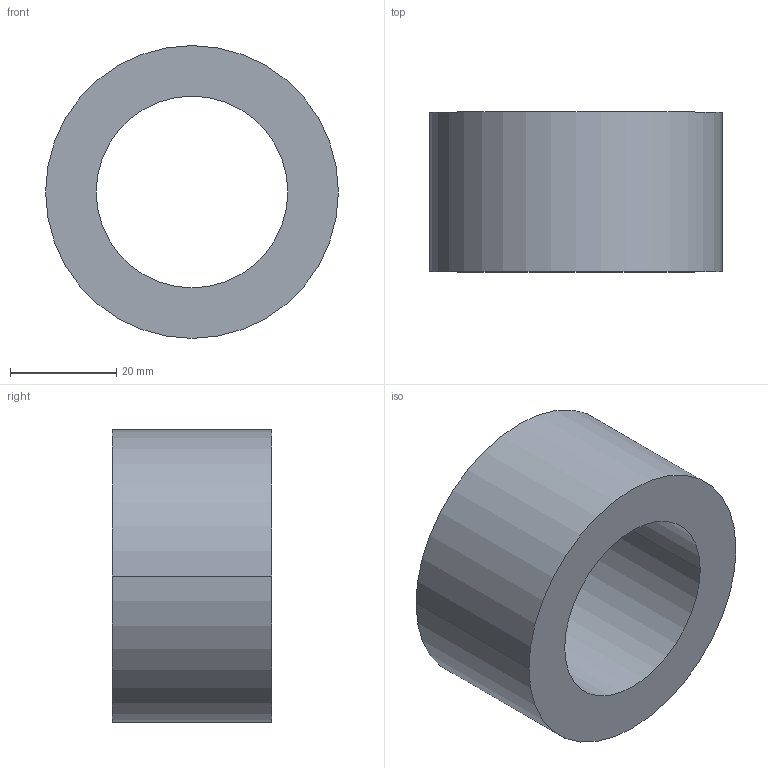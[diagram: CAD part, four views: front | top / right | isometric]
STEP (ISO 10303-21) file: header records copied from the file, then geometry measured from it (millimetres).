
FILE_DESCRIPTION (( 'STEP AP203' ), '1' );
FILE_NAME ('30800.WPP55L36.0.step', '2019-01-23T22:53:52', ( '' ), ( '' ), 'SwSTEP 2.0', 'SolidWorks 2017', '' );
FILE_SCHEMA (( 'CONFIG_CONTROL_DESIGN' ));
Length unit declared in the file: millimetre
Products named in the file (1): 30800.WPP55L36.0
Bounding box: 55 x 30 x 55 mm (x, y, z)
Volume: 40428.4 mm3; surface area: 11128 mm2
Topology: 1 solids, 1 shells, 8 faces, 16 edges, 10 vertices
Faces by surface type: cylinder 4, torus 2, plane 2
Entity records: 297 total; most frequent: DIRECTION 46, CARTESIAN_POINT 35, ORIENTED_EDGE 32, AXIS2_PLACEMENT_3D 21, EDGE_CURVE 16, CIRCLE 12, EDGE_LOOP 10, VERTEX_POINT 10
